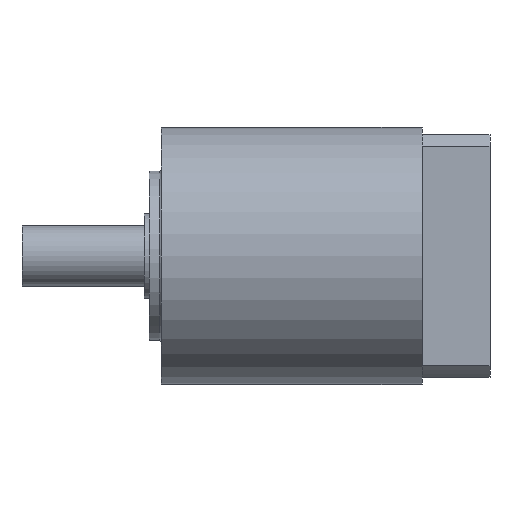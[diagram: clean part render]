
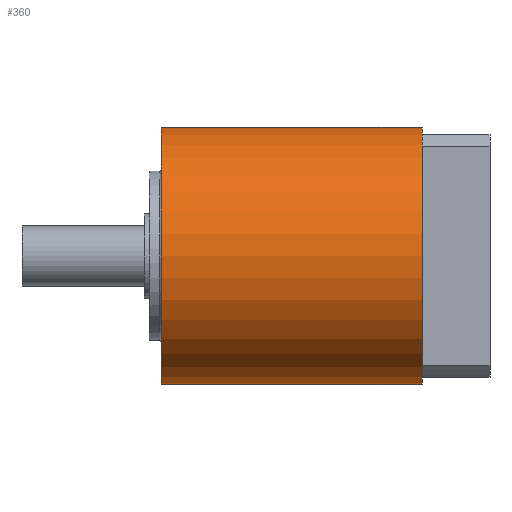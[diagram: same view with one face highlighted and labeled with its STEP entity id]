
A CAD part, front view. The second image highlights one B-rep face of the part: STEP entity #360.
In plain terms, the highlighted cylindrical face has radius 53 mm (diameter 106 mm), a full revolution.
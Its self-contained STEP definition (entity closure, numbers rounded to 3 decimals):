
#168=CYLINDRICAL_SURFACE('',#1582,53.);
#252=FACE_BOUND('',#617,.T.);
#253=FACE_BOUND('',#618,.T.);
#360=ADVANCED_FACE('',(#252,#253),#168,.T.);
#617=EDGE_LOOP('',(#1037));
#618=EDGE_LOOP('',(#1038));
#1037=ORIENTED_EDGE('',*,*,#1328,.T.);
#1038=ORIENTED_EDGE('',*,*,#1330,.T.);
#1179=VERTEX_POINT('',#2427);
#1181=VERTEX_POINT('',#2432);
#1328=EDGE_CURVE('',#1179,#1179,#1413,.T.);
#1330=EDGE_CURVE('',#1181,#1181,#1415,.T.);
#1413=CIRCLE('',#1577,53.);
#1415=CIRCLE('',#1580,53.);
#1577=AXIS2_PLACEMENT_3D('',#2426,#1968,#1969);
#1580=AXIS2_PLACEMENT_3D('',#2431,#1974,#1975);
#1582=AXIS2_PLACEMENT_3D('',#2434,#1978,#1979);
#1968=DIRECTION('',(-1.,0.,0.));
#1969=DIRECTION('',(0.,0.866,0.5));
#1974=DIRECTION('',(1.,0.,0.));
#1975=DIRECTION('',(0.,-0.866,-0.5));
#1978=DIRECTION('',(1.,0.,0.));
#1979=DIRECTION('',(0.,-0.866,-0.5));
#2426=CARTESIAN_POINT('',(0.,0.,0.));
#2427=CARTESIAN_POINT('',(0.,45.899,26.5));
#2431=CARTESIAN_POINT('',(-107.5,0.,0.));
#2432=CARTESIAN_POINT('',(-107.5,-45.899,-26.5));
#2434=CARTESIAN_POINT('',(-107.5,0.,0.));
